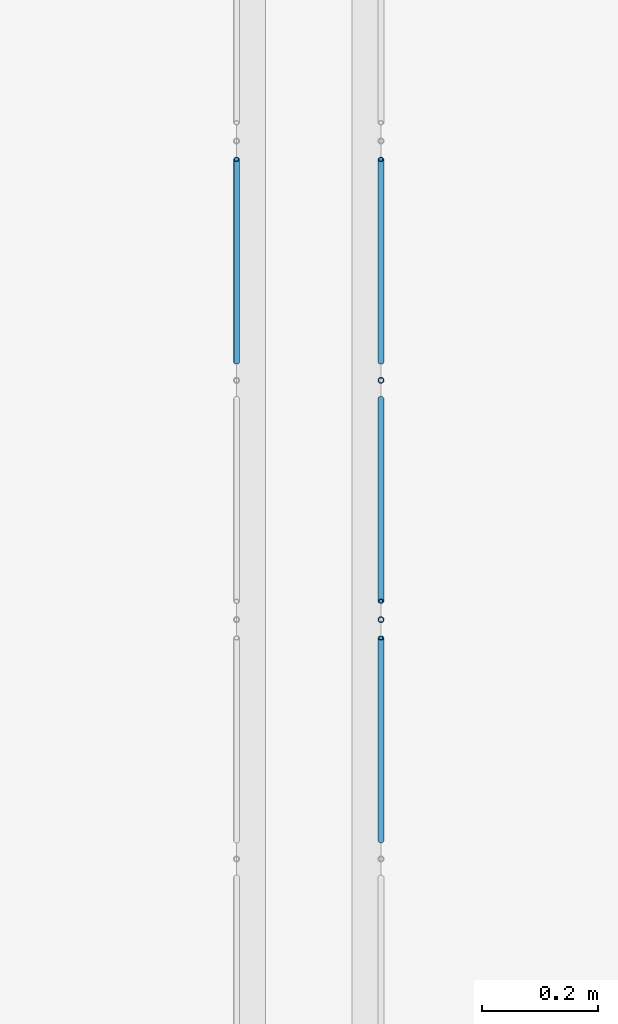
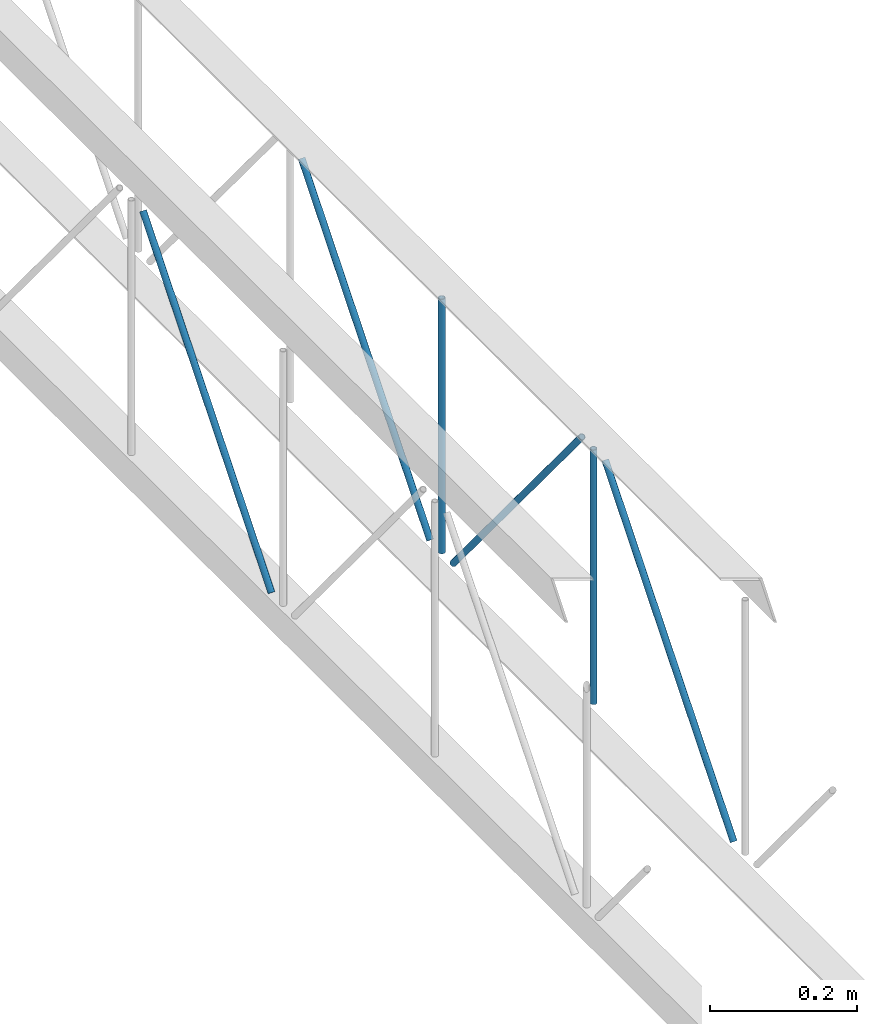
# One storey, part 91 of 153: 6 members, 2 elements without a shape of their own.
"""IFC4 building model written with IfcOpenShell, lengths in metres."""

from ifc_helpers import new_model, entity, si_unit, converted_unit, derived_unit, direction, frame, origin, place, context, subcontext, project, spatial, arc, indexed_curve, outline, extrude, source, transform, mapped, material, type_object, type_shapes, element, aggregate, save


model = new_model("IFC4")

# Units and contexts
model_context = context("Model", 3, precision=1e-05, world=origin(), true_north=direction((6.123031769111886e-17, 1.0)))
body_context = subcontext(model_context, "Body", "Model", "MODEL_VIEW")
ifc_project = project(units=[si_unit("LENGTHUNIT", "METRE"), si_unit("AREAUNIT", "SQUARE_METRE"), si_unit("VOLUMEUNIT", "CUBIC_METRE"), converted_unit("PLANEANGLEUNIT", "DEGREE", entity("IfcRatioMeasure", 0.017453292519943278), si_unit("PLANEANGLEUNIT", "RADIAN"), dimensions=[0, 0, 0, 0, 0, 0, 0]), si_unit("MASSUNIT", "GRAM", prefix="KILO"), derived_unit("MASSDENSITYUNIT", [(si_unit("MASSUNIT", "GRAM", prefix="KILO"), 1), (si_unit("LENGTHUNIT", "METRE"), -3)]), derived_unit("MOMENTOFINERTIAUNIT", [(si_unit("LENGTHUNIT", "METRE"), 4)]), si_unit("TIMEUNIT", "SECOND"), si_unit("FREQUENCYUNIT", "HERTZ"), si_unit("THERMODYNAMICTEMPERATUREUNIT", "DEGREE_CELSIUS"), derived_unit("THERMALTRANSMITTANCEUNIT", [(si_unit("MASSUNIT", "GRAM", prefix="KILO"), 1), (si_unit("THERMODYNAMICTEMPERATUREUNIT", "KELVIN"), -1), (si_unit("TIMEUNIT", "SECOND"), -3)]), derived_unit("VOLUMETRICFLOWRATEUNIT", [(si_unit("LENGTHUNIT", "METRE"), 3), (si_unit("TIMEUNIT", "SECOND"), -1)]), derived_unit("MASSFLOWRATEUNIT", [(si_unit("MASSUNIT", "GRAM", prefix="KILO"), 1), (si_unit("TIMEUNIT", "SECOND"), -1)]), derived_unit("ROTATIONALFREQUENCYUNIT", [(si_unit("TIMEUNIT", "SECOND"), -1)]), si_unit("ELECTRICCURRENTUNIT", "AMPERE"), si_unit("ELECTRICVOLTAGEUNIT", "VOLT"), si_unit("POWERUNIT", "WATT"), si_unit("FORCEUNIT", "NEWTON", prefix="KILO"), si_unit("ILLUMINANCEUNIT", "LUX"), si_unit("LUMINOUSFLUXUNIT", "LUMEN"), si_unit("LUMINOUSINTENSITYUNIT", "CANDELA"), derived_unit("USERDEFINED", [(si_unit("MASSUNIT", "GRAM", prefix="KILO"), -1), (si_unit("LENGTHUNIT", "METRE"), -2), (si_unit("TIMEUNIT", "SECOND"), 3), (si_unit("LUMINOUSFLUXUNIT", "LUMEN"), 1)]), derived_unit("SOUNDPOWERUNIT", [(si_unit("MASSUNIT", "GRAM", prefix="KILO"), 1), (si_unit("LENGTHUNIT", "METRE"), 2), (si_unit("TIMEUNIT", "SECOND"), -3)]), derived_unit("SOUNDPRESSUREUNIT", [(si_unit("MASSUNIT", "GRAM", prefix="KILO"), 1), (si_unit("LENGTHUNIT", "METRE"), -1), (si_unit("TIMEUNIT", "SECOND"), -2)]), derived_unit("LINEARVELOCITYUNIT", [(si_unit("LENGTHUNIT", "METRE"), 1), (si_unit("TIMEUNIT", "SECOND"), -1)]), si_unit("PRESSUREUNIT", "PASCAL"), derived_unit("USERDEFINED", [(si_unit("LENGTHUNIT", "METRE"), -2), (si_unit("MASSUNIT", "GRAM", prefix="KILO"), 1), (si_unit("TIMEUNIT", "SECOND"), -2)]), derived_unit("LINEARFORCEUNIT", [(si_unit("MASSUNIT", "GRAM", prefix="KILO"), 1), (si_unit("LENGTHUNIT", "METRE"), 1), (si_unit("TIMEUNIT", "SECOND"), -2), (si_unit("LENGTHUNIT", "METRE"), -1)]), derived_unit("PLANARFORCEUNIT", [(si_unit("MASSUNIT", "GRAM", prefix="KILO"), 1), (si_unit("LENGTHUNIT", "METRE"), 1), (si_unit("TIMEUNIT", "SECOND"), -2), (si_unit("LENGTHUNIT", "METRE"), -2)])], contexts=[model_context])

# Site, building, storey
site_placement = place(None, origin())
site = spatial("IfcSite", under=ifc_project, at=site_placement, Name="Superficie", CompositionType="ELEMENT")
building_placement = place(site_placement, origin())
building = spatial("IfcBuilding", under=site, at=building_placement, CompositionType="ELEMENT")
storey_placement = place(building_placement, frame((0.0, 0.0, 3.5999999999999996)))
storey = spatial("IfcBuildingStorey", under=building, at=storey_placement, Name="Nivel 1", CompositionType="ELEMENT", Elevation=3.5999999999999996)

# Assembly, member
assembly_1_placement = place(storey_placement, origin())
assembly_1 = element("IfcElementAssembly", 1, at=assembly_1_placement, inside=storey, Name="Viga de celosia 13:Viga de celosia 13", ObjectType="Viga de celosia 13:Viga de celosia 13", AssemblyPlace="NOTDEFINED", PredefinedType="TRUSS")
ifc_material = material(Name="Metal - Calibre delgado", Category="Metal")
member_type_1 = type_object("IfcMemberType", Name="HSS-Tubo estructural redondo:HSS 0.01", PredefinedType="BRACE", material=ifc_material)
shared_shape_1 = source(origin(), body_context, "Body", "SweptSolid", [
    extrude(outline(indexed_curve([(-0.005000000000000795, 7.502054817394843e-18), (-9.800269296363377e-18, -0.005000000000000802), (0.005000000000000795, -7.502054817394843e-18), (8.07772287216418e-18, 0.005000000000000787)], segments=[arc(1, 2, 3), arc(3, 4, 1)], self_intersect=False), holes=[indexed_curve([(0.003999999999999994, 7.222511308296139e-17), (6.910645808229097e-17, -0.004000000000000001), (-0.003999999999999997, -1.8650054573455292e-17), (-2.9156497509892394e-17, 0.003999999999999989)], segments=[arc(1, 2, 3), arc(3, 4, 1)], self_intersect=False)]), frame((-0.275, 0.0, 0.0), z_axis=(1.0, 0.0, 0.0), x_axis=(0.0, 1.0, 0.0)), (0.0, 0.0, 1.0), 0.55),
])
type_shapes(member_type_1, [shared_shape_1])
member_1_placement = place(assembly_1_placement, frame((15.83679901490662, -5.1981641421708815, 0.25), z_axis=(0.0, 0.7699758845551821, -0.6380729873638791), x_axis=(0.0, 0.6380729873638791, 0.7699758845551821)))
member_1 = element("IfcMember", 2, at=member_1_placement, type_object=member_type_1, material=ifc_material, Name="HSS-Tubo estructural redondo:HSS 0.01", ObjectType="HSS-Tubo estructural redondo:HSS 0.01", PredefinedType="BRACE", context=body_context, shape_type="MappedRepresentation", body=[
    mapped(shared_shape_1, transform((0.0, 0.0, 0.0), scale=1.0)),
])
aggregate(assembly_1, [member_1])

# Assembly, members
assembly_2_placement = place(storey_placement, origin())
assembly_2 = element("IfcElementAssembly", 3, at=assembly_2_placement, inside=storey, Name="Viga de celosia 13:Viga de celosia 13", ObjectType="Viga de celosia 13:Viga de celosia 13", AssemblyPlace="NOTDEFINED", PredefinedType="TRUSS")
member_type_2 = type_object("IfcMemberType", Name="HSS-Tubo estructural redondo:HSS 0.01", PredefinedType="BRACE", material=ifc_material)
shared_shape_2 = source(origin(), body_context, "Body", "SweptSolid", [
    extrude(outline(indexed_curve([(-0.005000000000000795, 2.0824731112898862e-17), (-2.3122945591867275e-17, -0.005000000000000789), (0.005000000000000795, -2.08247311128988e-17), (2.14003991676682e-17, 0.005000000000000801)], segments=[arc(1, 2, 3), arc(3, 4, 1)], self_intersect=False), holes=[indexed_curve([(0.003999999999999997, -1.3094283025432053e-17), (-1.531427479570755e-18, -0.003999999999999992), (-0.004, 4.0098531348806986e-17), (4.1481388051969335e-17, 0.0039999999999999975)], segments=[arc(1, 2, 3), arc(3, 4, 1)], self_intersect=False)]), frame((-0.21200000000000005, 0.0, 0.0), z_axis=(1.0, 0.0, 0.0), x_axis=(0.0, -1.0, 0.0)), (0.0, 0.0, 1.0), 0.4240000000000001),
])
type_shapes(member_type_2, [shared_shape_2])
member_2_placement = place(assembly_2_placement, frame((16.086799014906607, -5.8196832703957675, 0.25), z_axis=(0.0, 1.0, 0.0), x_axis=(0.0, 0.0, 1.0)))
member_2 = element("IfcMember", 4, at=member_2_placement, type_object=member_type_2, material=ifc_material, Name="HSS-Tubo estructural redondo:HSS 0.01", ObjectType="HSS-Tubo estructural redondo:HSS 0.01", PredefinedType="BRACE", context=body_context, shape_type="MappedRepresentation", body=[
    mapped(shared_shape_2, transform((0.0, 0.0, 0.0), scale=1.0)),
])
member_3_placement = place(assembly_2_placement, frame((16.086799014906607, -5.405337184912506, 0.25), z_axis=(0.0, 1.0, 0.0), x_axis=(0.0, 0.0, 1.0)))
member_3 = element("IfcMember", 5, at=member_3_placement, type_object=member_type_2, material=ifc_material, Name="HSS-Tubo estructural redondo:HSS 0.01", ObjectType="HSS-Tubo estructural redondo:HSS 0.01", PredefinedType="BRACE", context=body_context, shape_type="MappedRepresentation", body=[
    mapped(shared_shape_2, transform((0.0, 0.0, 0.0), scale=1.0)),
])
member_type_3 = type_object("IfcMemberType", Name="HSS-Tubo estructural redondo:HSS 0.01", PredefinedType="BRACE", material=ifc_material)
shared_shape_3 = source(origin(), body_context, "Body", "SweptSolid", [
    extrude(outline(indexed_curve([(-0.005000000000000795, 2.0824731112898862e-17), (-2.3122945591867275e-17, -0.005000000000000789), (0.005000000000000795, -2.08247311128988e-17), (2.14003991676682e-17, 0.005000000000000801)], segments=[arc(1, 2, 3), arc(3, 4, 1)], self_intersect=False), holes=[indexed_curve([(0.003999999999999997, -1.3094283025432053e-17), (-1.531427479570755e-18, -0.003999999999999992), (-0.004, 4.0098531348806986e-17), (4.1481388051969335e-17, 0.0039999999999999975)], segments=[arc(1, 2, 3), arc(3, 4, 1)], self_intersect=False)]), frame((-0.275, 0.0, 0.0), z_axis=(1.0, 0.0, 0.0), x_axis=(0.0, -1.0, 0.0)), (0.0, 0.0, 1.0), 0.55),
])
type_shapes(member_type_3, [shared_shape_3])
member_4_placement = place(assembly_2_placement, frame((16.086799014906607, -6.026856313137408, 0.25), z_axis=(0.0, 0.7699758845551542, -0.6380729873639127), x_axis=(0.0, 0.6380729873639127, 0.7699758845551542)))
member_4 = element("IfcMember", 6, at=member_4_placement, type_object=member_type_3, material=ifc_material, Name="HSS-Tubo estructural redondo:HSS 0.01", ObjectType="HSS-Tubo estructural redondo:HSS 0.01", PredefinedType="BRACE", context=body_context, shape_type="MappedRepresentation", body=[
    mapped(shared_shape_3, transform((0.0, 0.0, 0.0), scale=1.0)),
])
member_5_placement = place(assembly_2_placement, frame((16.086799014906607, -5.612510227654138, 0.24999999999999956), z_axis=(0.0, -0.7699758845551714, -0.638072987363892), x_axis=(0.0, 0.638072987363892, -0.7699758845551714)))
member_5 = element("IfcMember", 7, at=member_5_placement, type_object=member_type_3, material=ifc_material, Name="HSS-Tubo estructural redondo:HSS 0.01", ObjectType="HSS-Tubo estructural redondo:HSS 0.01", PredefinedType="BRACE", context=body_context, shape_type="MappedRepresentation", body=[
    mapped(shared_shape_3, transform((0.0, 0.0, 0.0), scale=1.0)),
])
member_6_placement = place(assembly_2_placement, frame((16.086799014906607, -5.1981641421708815, 0.25), z_axis=(0.0, 0.7699758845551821, -0.6380729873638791), x_axis=(0.0, 0.6380729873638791, 0.7699758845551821)))
member_6 = element("IfcMember", 8, at=member_6_placement, type_object=member_type_3, material=ifc_material, Name="HSS-Tubo estructural redondo:HSS 0.01", ObjectType="HSS-Tubo estructural redondo:HSS 0.01", PredefinedType="BRACE", context=body_context, shape_type="MappedRepresentation", body=[
    mapped(shared_shape_3, transform((0.0, 0.0, 0.0), scale=1.0)),
])
aggregate(assembly_2, [member_2, member_3, member_4, member_5, member_6])

save(model, "model.ifc")
